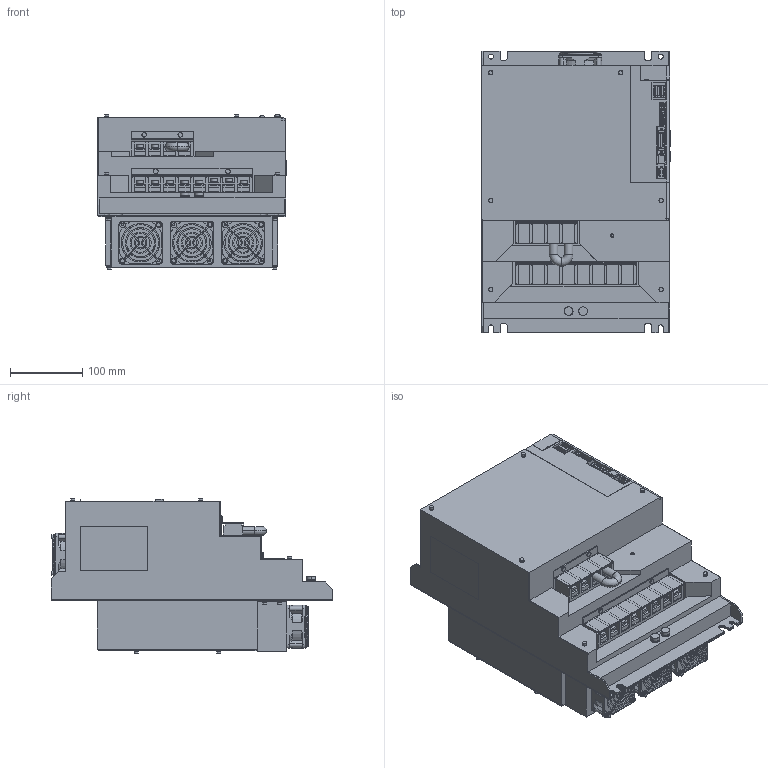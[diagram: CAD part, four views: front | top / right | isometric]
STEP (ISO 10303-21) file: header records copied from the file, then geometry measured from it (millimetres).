
FILE_DESCRIPTION (( 'STEP AP203' ), '1' );
FILE_NAME ('sgd7s_780a10a001.STEP', '2015-10-16T04:25:07', ( '匠エンジニアリング山之内' ), ( 'TAKUMI-Engniaring' ), 'SwSTEP 2.0', 'SolidWorks 2006303', '' );
FILE_SCHEMA (( 'CONFIG_CONTROL_DESIGN' ));
Products named in the file (8): sgd7s_780a10a001_cover3; sgd7s_780a10a001_cover4; sgd7s_780a10a001_terminal; sgd7s_780a10a001; sgd7s_780a10a001_base; sgd7s_780a10a001_cover; sgd7s_780a10a001_cover2; sgd7s_780a10a001_connector
Assembly tree (8 placements, depth 2):
  sgd7s_780a10a001
    sgd7s_780a10a001_connector
    sgd7s_780a10a001_cover3
    sgd7s_780a10a001_cover2  x2
    sgd7s_780a10a001_cover4
    sgd7s_780a10a001_base
    sgd7s_780a10a001_terminal
    sgd7s_780a10a001_cover
Bounding box: 260.6 x 390 x 214.6 mm (x, y, z)
Volume: 12104161.2 mm3; surface area: 1083811.7 mm2
Topology: 8 solids, 8 shells, 2723 faces, 7753 edges, 5097 vertices
Faces by surface type: plane 2057, cylinder 593, cone 68, torus 4, sphere 1
Entity records: 88815 total; most frequent: CARTESIAN_POINT 15929, ORIENTED_EDGE 15398, DIRECTION 14551, EDGE_CURVE 7699, VECTOR 6017, LINE 6017, VERTEX_POINT 5061, AXIS2_PLACEMENT_3D 4267
